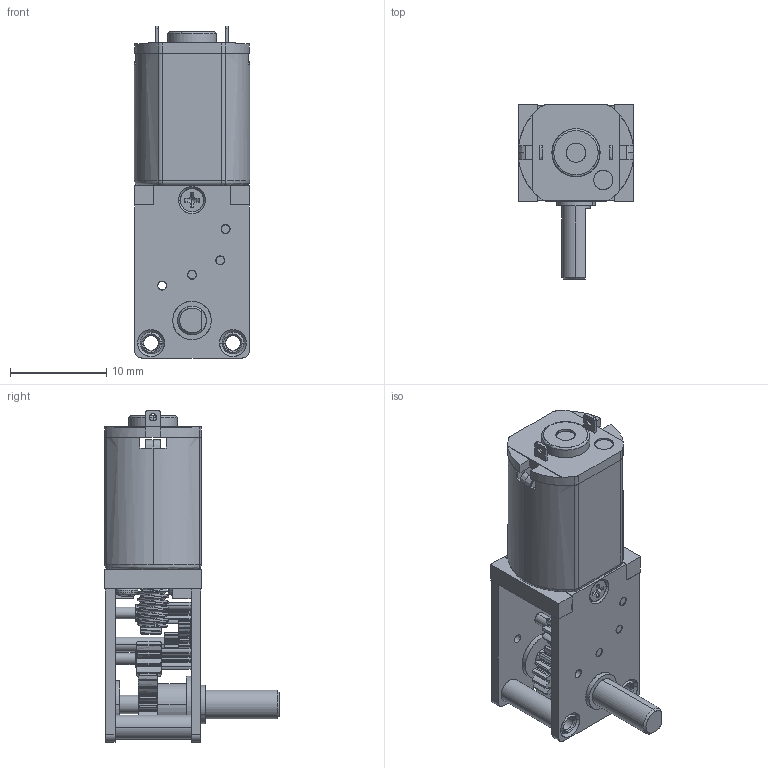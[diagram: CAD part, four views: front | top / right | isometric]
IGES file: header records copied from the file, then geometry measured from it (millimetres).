
Start section: SolidWorks IGES file using analytic representation for surfaces
Global section: file name: M:\Shop\Eric Lavoie\SolidWorks\Eric Lavoie\Coffee\Automatic Tamper - N20 Motor, Right Angle\N20 Right Angle Gear Motor Redraw\N20 Right Angle Gear Motor 42to1.IGS; native system: SolidWorks 2022; preprocessor: SolidWorks 2022; author: elavoie; date: 250501.110425; units: millimetre
Bounding box: 12 x 18.1 x 34.5 mm (x, y, z)
Surface area: 4180.4 mm2 (no closed solid volume)
Topology: 0 solids, 0 shells, 1513 faces, 14112 edges, 14108 vertices
Faces by surface type: revolution 1022, bspline 491
